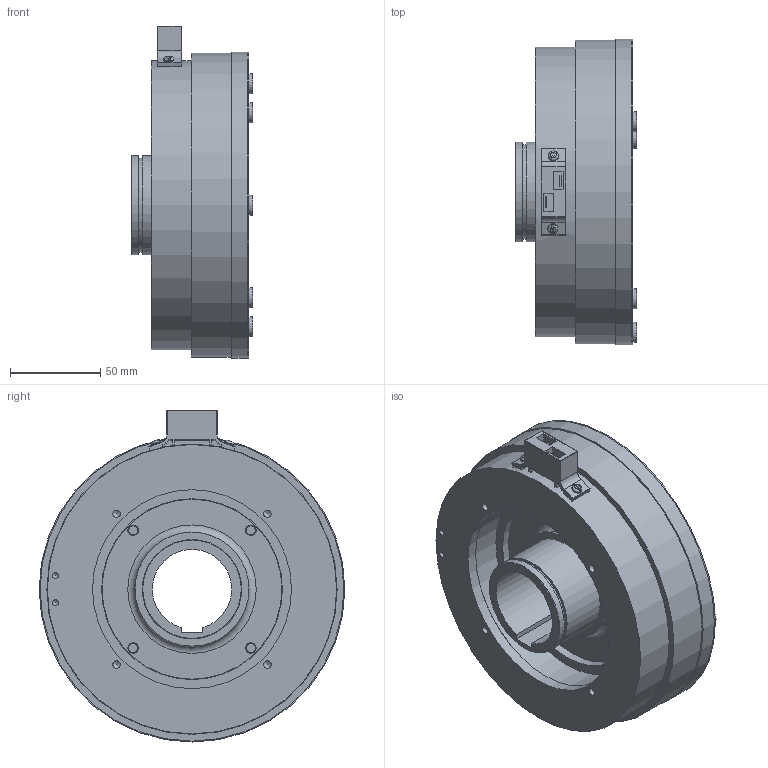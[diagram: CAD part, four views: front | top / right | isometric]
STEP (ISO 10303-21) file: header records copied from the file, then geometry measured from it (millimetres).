
FILE_DESCRIPTION(/* description */ (''),/* implementation_level */ '2;1');
FILE_NAME(/* name */ 'X:\INVENTOR\DISEGNI\08_Freni_Friz_Elettmag_Monodisco\08_26 EMSL_DF\EMSL_DF STEP\08_26_170_21 EMSL170_DF-BM_S@STEP.stp',/* time_stamp */ '2018-04-24T08:24:45+02:00',/* author */ ('stefano'),/* organization */ (''),/* preprocessor_version */ 'ST-DEVELOPER v17',/* originating_system */ 'Autodesk Inventor 2018',/* authorisation */ '');
FILE_SCHEMA (('AUTOMOTIVE_DESIGN { 1 0 10303 214 3 1 1 }'));
Length unit declared in the file: millimetre
Products named in the file (1): 08_26_170_21 EMSL170_DF-BM - Spina_Substitute_1
Bounding box: 67 x 169 x 183.59 mm (x, y, z)
Volume: 642708.5 mm3; surface area: 221821.6 mm2
Topology: 3 solids, 3 shells, 440 faces, 1199 edges, 785 vertices
Faces by surface type: cylinder 222, plane 123, cone 41, torus 34, sphere 20
Full cylindrical faces by diameter (mm): 1.5 x6, 3.242 x2, 4.134 x4, 5.6 x2, 6 x1, 6.1 x3, 10.5 x4, 11 x12, 52 x1, 55 x2, 63 x1, 80 x1, 99.5 x1, 100 x1, 105 x2, 106 x1, 110 x1, 110.5 x1, 111 x1, 122 x1, 129 x2, 149 x2, 155 x1, 160 x1, 160.5 x1, 168 x1, 169 x2
Entity records: 14692 total; most frequent: CARTESIAN_POINT 2748, DIRECTION 2660, ORIENTED_EDGE 2330, EDGE_CURVE 1165, AXIS2_PLACEMENT_3D 1107, VERTEX_POINT 785, CIRCLE 666, EDGE_LOOP 556
